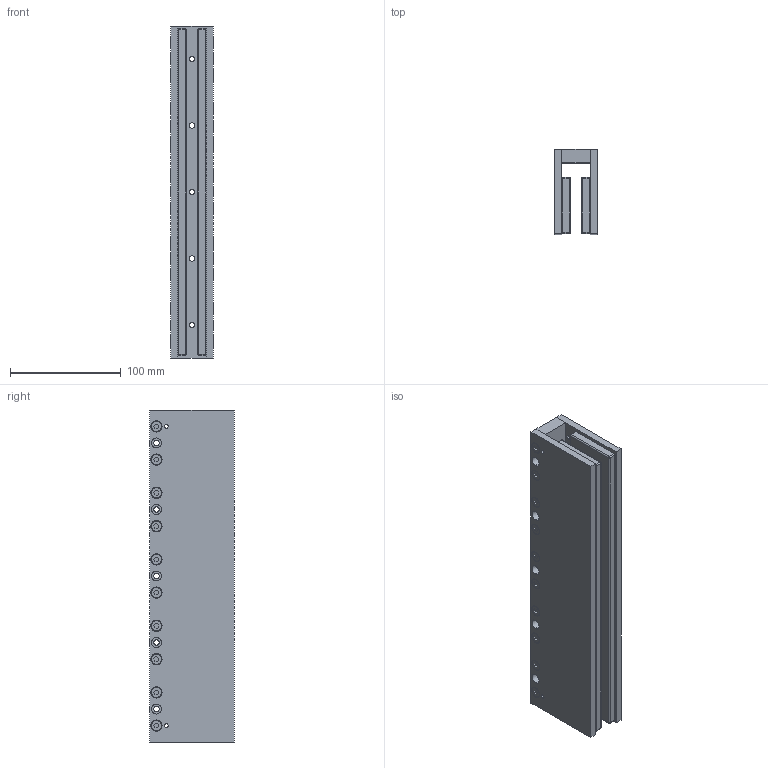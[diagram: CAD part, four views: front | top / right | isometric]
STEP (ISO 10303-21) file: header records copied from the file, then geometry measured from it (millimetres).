
FILE_DESCRIPTION (( 'STEP AP214' ), '1' );
FILE_NAME ('DX50F-TL300.step', '2021-01-04T09:38:38', ( '' ), ( '' ), 'SwSTEP 2.0', 'SolidWorks 2020', '' );
FILE_SCHEMA (( 'AUTOMOTIVE_DESIGN' ));
Length unit declared in the file: millimetre
Products named in the file (1): DX50F-TL300
Bounding box: 38.7 x 76.2 x 299.5 mm (x, y, z)
Volume: 610321.9 mm3; surface area: 137029 mm2
Topology: 1 solids, 11 shells, 604 faces, 1310 edges, 814 vertices
Faces by surface type: plane 276, cylinder 272, torus 40, sphere 16
Entity records: 23088 total; most frequent: DIRECTION 3068, CARTESIAN_POINT 2773, ORIENTED_EDGE 2588, EDGE_CURVE 1294, AXIS2_PLACEMENT_3D 1189, VERTEX_POINT 814, EDGE_LOOP 744, VECTOR 690
